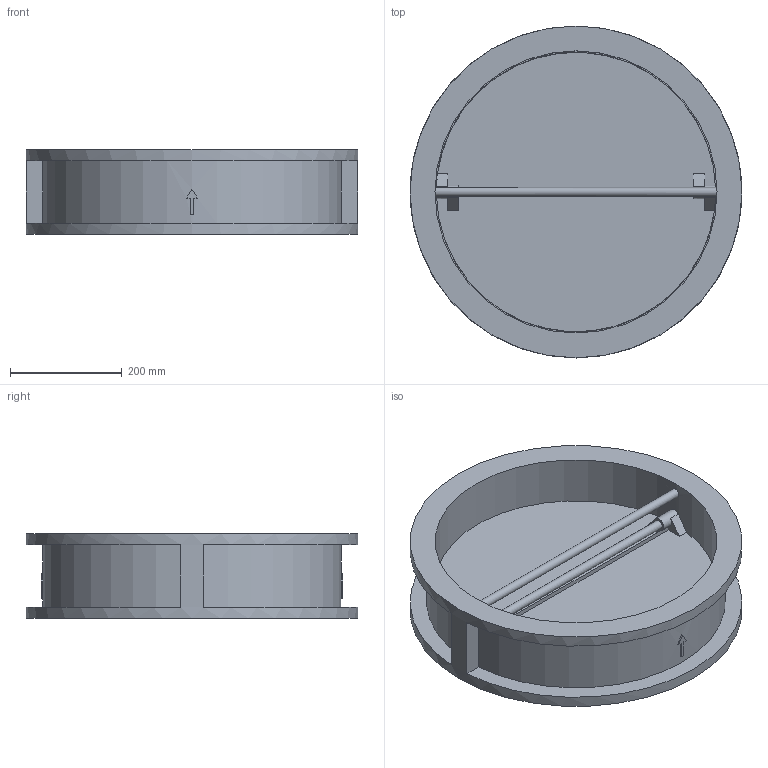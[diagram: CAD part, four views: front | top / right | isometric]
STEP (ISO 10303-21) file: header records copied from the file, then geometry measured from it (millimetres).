
FILE_DESCRIPTION(('STEP AP203'), '1');
FILE_NAME('孰囡囗 钺疣蝽 溻篚耱忸瘅囹 戾骠豚眦邂 010C DN500', '', ('UNSPECIFIED'), ('UNSPECIFIED'), 'ASCON STEP Converter 1.6', 'ASCON Math Kernel', '');
FILE_SCHEMA(('CONFIG_CONTROL_DESIGN'));
Length unit declared in the file: millimetre
Bounding box: 594 x 594 x 152 mm (x, y, z)
Volume: 10352454.8 mm3; surface area: 1273187.3 mm2
Topology: 1 solids, 1 shells, 73 faces, 201 edges, 132 vertices
Faces by surface type: plane 55, cylinder 16, cone 2
Full cylindrical faces by diameter (mm): 16 x4, 505 x1, 594 x1
Entity records: 4168 total; most frequent: CARTESIAN_POINT 1709, ORIENTED_EDGE 388, DIRECTION 360, EDGE_CURVE 194, VERTEX_POINT 132, LINE 124, VECTOR 124, AXIS2_PLACEMENT_3D 118
